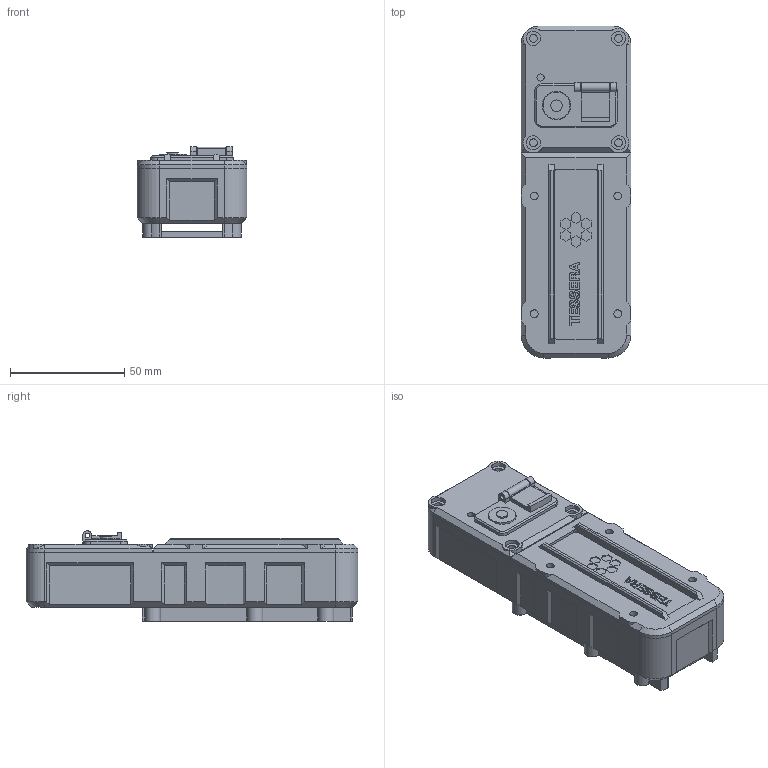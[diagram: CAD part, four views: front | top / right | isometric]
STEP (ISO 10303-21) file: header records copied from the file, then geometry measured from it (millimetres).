
FILE_DESCRIPTION(('Open CASCADE Model'),'2;1');
FILE_NAME('Open CASCADE Shape Model','2026-10-09T15:33:22',('Author'),( 'Open CASCADE'),'Open CASCADE STEP processor 7.9','Open CASCADE 7.9' ,'Unknown');
FILE_SCHEMA(('AUTOMOTIVE_DESIGN { 1 0 10303 214 1 1 1 1 }'));
Length unit declared in the file: millimetre
Products named in the file (16): ff91d678-c3e5-11f1-8bb6-02fc00000001; body; lid; hatch; gasket_lid; gasket_hatch; keypad_tpu; keypad_retainer; sos_guard; usb_plug_tpu; pals_mount; gnss_tray; ref_cell; ref_board; ref_motor; ref_patch
Assembly tree (15 placements, depth 2):
  ff91d678-c3e5-11f1-8bb6-02fc00000001
    body
    lid
    hatch
    gasket_lid
    gasket_hatch
    keypad_tpu
    keypad_retainer
    sos_guard
    usb_plug_tpu
    pals_mount
    gnss_tray
    ref_cell
    ref_board
    ref_motor
    ref_patch
Bounding box: 48 x 145 x 39.5 mm (x, y, z)
Volume: 150315 mm3; surface area: 76595.7 mm2
Topology: 15 solids, 15 shells, 840 faces, 2197 edges, 1450 vertices
Faces by surface type: plane 492, cylinder 250, extrusion 74, cone 24
Full cylindrical faces by diameter (mm): 1.7 x6, 1.9 x2, 2 x1, 2.1 x4, 2.3 x6, 3.1 x1, 3.2 x2, 3.4 x14, 3.6 x2, 4 x14, 5 x6, 6.2 x4, 6.6 x1, 9.6 x2, 9.8 x2, 10 x1, 11.8 x2, 12.4 x2, 14.8 x2, 16 x2, 21.4 x1
Entity records: 58236 total; most frequent: CARTESIAN_POINT 15429, DIRECTION 7381, VECTOR 4430, ORIENTED_EDGE 4394, PCURVE 4394, DEFINITIONAL_REPRESENTATION 4394, LINE 4356, EDGE_CURVE 2197
